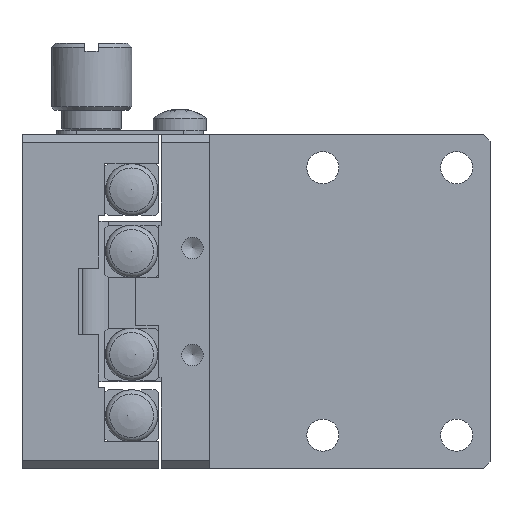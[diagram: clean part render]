
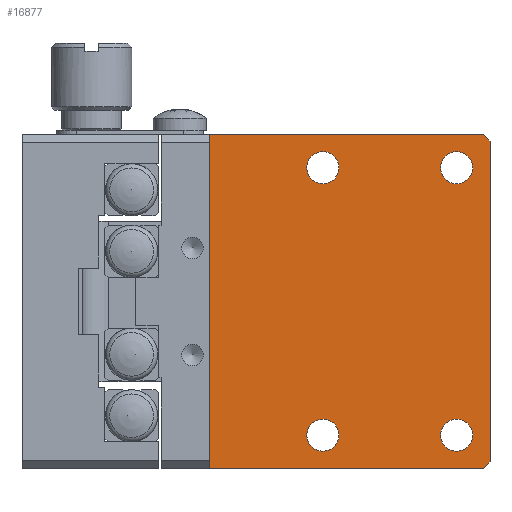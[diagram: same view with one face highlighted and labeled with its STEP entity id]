
A CAD part, front view. The second image highlights one B-rep face of the part: STEP entity #16877.
In plain terms, the highlighted planar face has unit normal (0, -1, 0).
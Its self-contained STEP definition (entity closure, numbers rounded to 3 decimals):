
#187 = VERTEX_POINT ( 'NONE', #6035 ) ;
#703 = CARTESIAN_POINT ( 'NONE',  ( 26.458, 40.44, 64.994 ) ) ;
#781 = EDGE_CURVE ( 'NONE', #31072, #42625, #5916, .T. ) ;
#976 = CARTESIAN_POINT ( 'NONE',  ( 16.458, 40.44, 64.994 ) ) ;
#1188 = EDGE_CURVE ( 'NONE', #19459, #19459, #15241, .T. ) ;
#1313 = VECTOR ( 'NONE', #13718, 1000. ) ;
#1488 = VECTOR ( 'NONE', #7232, 1000. ) ;
#1604 = ORIENTED_EDGE ( 'NONE', *, *, #11977, .T. ) ;
#3071 = FACE_BOUND ( 'NONE', #28435, .T. ) ;
#3078 = VERTEX_POINT ( 'NONE', #17129 ) ;
#3382 = CARTESIAN_POINT ( 'NONE',  ( 28.458, 40.44, 41.294 ) ) ;
#3775 = DIRECTION ( 'NONE',  ( 0., 1., 0. ) ) ;
#4131 = CARTESIAN_POINT ( 'NONE',  ( 28.958, 40.44, 41.794 ) ) ;
#4278 = VECTOR ( 'NONE', #33017, 1000. ) ;
#5371 = CARTESIAN_POINT ( 'NONE',  ( 26.458, 40.44, 63.794 ) ) ;
#5467 = CARTESIAN_POINT ( 'NONE',  ( 8.958, 40.44, 41.294 ) ) ;
#5916 = LINE ( 'NONE', #5467, #10786 ) ;
#5974 = ORIENTED_EDGE ( 'NONE', *, *, #15712, .F. ) ;
#6035 = CARTESIAN_POINT ( 'NONE',  ( 28.958, 40.44, 41.794 ) ) ;
#6073 = CARTESIAN_POINT ( 'NONE',  ( 26.458, 40.44, 43.794 ) ) ;
#6222 = EDGE_CURVE ( 'NONE', #38172, #16059, #21470, .T. ) ;
#6541 = CARTESIAN_POINT ( 'NONE',  ( 8.958, 40.44, 66.294 ) ) ;
#7005 = VERTEX_POINT ( 'NONE', #27601 ) ;
#7232 = DIRECTION ( 'NONE',  ( 1., 0., 0. ) ) ;
#7654 = EDGE_CURVE ( 'NONE', #3078, #3078, #41892, .T. ) ;
#9566 = CARTESIAN_POINT ( 'NONE',  ( 28.458, 40.44, 66.294 ) ) ;
#9726 = ORIENTED_EDGE ( 'NONE', *, *, #6222, .F. ) ;
#9947 = AXIS2_PLACEMENT_3D ( 'NONE', #11042, #21159, #32449 ) ;
#10212 = ORIENTED_EDGE ( 'NONE', *, *, #7654, .T. ) ;
#10295 = EDGE_LOOP ( 'NONE', ( #10212 ) ) ;
#10750 = CARTESIAN_POINT ( 'NONE',  ( 7.958, 40.44, 41.294 ) ) ;
#10786 = VECTOR ( 'NONE', #23432, 1000. ) ;
#11042 = CARTESIAN_POINT ( 'NONE',  ( 16.458, 40.44, 63.794 ) ) ;
#11632 = CARTESIAN_POINT ( 'NONE',  ( 16.458, 40.44, 43.794 ) ) ;
#11977 = EDGE_CURVE ( 'NONE', #22627, #22627, #28331, .T. ) ;
#13143 = LINE ( 'NONE', #20486, #24099 ) ;
#13495 = LINE ( 'NONE', #35345, #1313 ) ;
#13718 = DIRECTION ( 'NONE',  ( 0., 0., 1. ) ) ;
#14467 = AXIS2_PLACEMENT_3D ( 'NONE', #6073, #38339, #20595 ) ;
#14646 = ORIENTED_EDGE ( 'NONE', *, *, #39957, .T. ) ;
#15241 = CIRCLE ( 'NONE', #14467, 1.2 ) ;
#15306 = DIRECTION ( 'NONE',  ( 0., 0., 1. ) ) ;
#15534 = DIRECTION ( 'NONE',  ( 0., 1., 0. ) ) ;
#15712 = EDGE_CURVE ( 'NONE', #7005, #187, #13143, .T. ) ;
#16059 = VERTEX_POINT ( 'NONE', #9566 ) ;
#16877 = ADVANCED_FACE ( 'NONE', ( #3071, #31186, #38329, #27965, #17351 ), #23583, .F. ) ;
#17129 = CARTESIAN_POINT ( 'NONE',  ( 16.458, 40.44, 44.994 ) ) ;
#17351 = FACE_OUTER_BOUND ( 'NONE', #34144, .T. ) ;
#19178 = CARTESIAN_POINT ( 'NONE',  ( 28.458, 40.44, 66.294 ) ) ;
#19385 = AXIS2_PLACEMENT_3D ( 'NONE', #5371, #15534, #19427 ) ;
#19427 = DIRECTION ( 'NONE',  ( 0., 0., 1. ) ) ;
#19459 = VERTEX_POINT ( 'NONE', #40874 ) ;
#19760 = EDGE_CURVE ( 'NONE', #31072, #38172, #13495, .T. ) ;
#19824 = AXIS2_PLACEMENT_3D ( 'NONE', #11632, #3775, #15306 ) ;
#20486 = CARTESIAN_POINT ( 'NONE',  ( 28.958, 40.44, 66.294 ) ) ;
#20595 = DIRECTION ( 'NONE',  ( 0., 0., 1. ) ) ;
#21159 = DIRECTION ( 'NONE',  ( 0., 1., 0. ) ) ;
#21470 = LINE ( 'NONE', #21694, #1488 ) ;
#21575 = EDGE_LOOP ( 'NONE', ( #32696 ) ) ;
#21694 = CARTESIAN_POINT ( 'NONE',  ( 8.958, 40.44, 66.294 ) ) ;
#21861 = DIRECTION ( 'NONE',  ( 0.707, 0., 0.707 ) ) ;
#22163 = ORIENTED_EDGE ( 'NONE', *, *, #1188, .T. ) ;
#22627 = VERTEX_POINT ( 'NONE', #976 ) ;
#23432 = DIRECTION ( 'NONE',  ( 1., 0., 0. ) ) ;
#23583 = PLANE ( 'NONE',  #28438 ) ;
#24099 = VECTOR ( 'NONE', #27180, 1000. ) ;
#25328 = LINE ( 'NONE', #4131, #31202 ) ;
#25338 = VERTEX_POINT ( 'NONE', #703 ) ;
#25481 = EDGE_CURVE ( 'NONE', #25338, #25338, #39260, .T. ) ;
#26325 = LINE ( 'NONE', #19178, #4278 ) ;
#27180 = DIRECTION ( 'NONE',  ( 0., 0., -1. ) ) ;
#27430 = ORIENTED_EDGE ( 'NONE', *, *, #19760, .F. ) ;
#27601 = CARTESIAN_POINT ( 'NONE',  ( 28.958, 40.44, 65.794 ) ) ;
#27965 = FACE_BOUND ( 'NONE', #10295, .T. ) ;
#28331 = CIRCLE ( 'NONE', #9947, 1.2 ) ;
#28435 = EDGE_LOOP ( 'NONE', ( #22163 ) ) ;
#28438 = AXIS2_PLACEMENT_3D ( 'NONE', #6541, #41551, #45264 ) ;
#29670 = EDGE_CURVE ( 'NONE', #42625, #187, #25328, .T. ) ;
#30797 = EDGE_LOOP ( 'NONE', ( #1604 ) ) ;
#31072 = VERTEX_POINT ( 'NONE', #10750 ) ;
#31186 = FACE_BOUND ( 'NONE', #21575, .T. ) ;
#31202 = VECTOR ( 'NONE', #21861, 1000. ) ;
#32449 = DIRECTION ( 'NONE',  ( 0., 0., 1. ) ) ;
#32696 = ORIENTED_EDGE ( 'NONE', *, *, #25481, .T. ) ;
#33017 = DIRECTION ( 'NONE',  ( -0.707, 0., 0.707 ) ) ;
#34144 = EDGE_LOOP ( 'NONE', ( #42197, #39714, #5974, #14646, #9726, #27430 ) ) ;
#35345 = CARTESIAN_POINT ( 'NONE',  ( 7.958, 40.44, 41.294 ) ) ;
#38172 = VERTEX_POINT ( 'NONE', #40020 ) ;
#38329 = FACE_BOUND ( 'NONE', #30797, .T. ) ;
#38339 = DIRECTION ( 'NONE',  ( 0., 1., 0. ) ) ;
#39260 = CIRCLE ( 'NONE', #19385, 1.2 ) ;
#39714 = ORIENTED_EDGE ( 'NONE', *, *, #29670, .T. ) ;
#39957 = EDGE_CURVE ( 'NONE', #7005, #16059, #26325, .T. ) ;
#40020 = CARTESIAN_POINT ( 'NONE',  ( 7.958, 40.44, 66.294 ) ) ;
#40874 = CARTESIAN_POINT ( 'NONE',  ( 26.458, 40.44, 44.994 ) ) ;
#41551 = DIRECTION ( 'NONE',  ( 0., 1., 0. ) ) ;
#41892 = CIRCLE ( 'NONE', #19824, 1.2 ) ;
#42197 = ORIENTED_EDGE ( 'NONE', *, *, #781, .T. ) ;
#42625 = VERTEX_POINT ( 'NONE', #3382 ) ;
#45264 = DIRECTION ( 'NONE',  ( 0., 0., 1. ) ) ;
